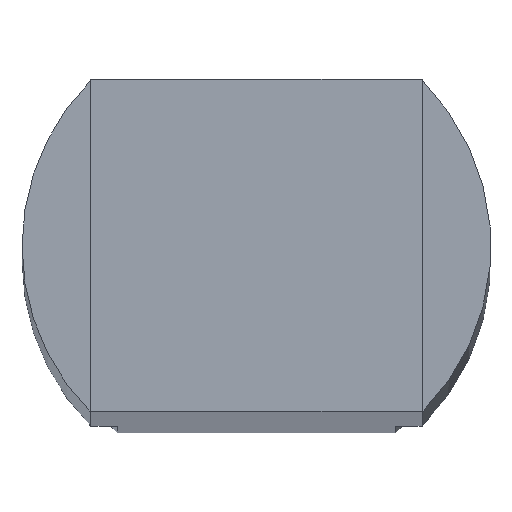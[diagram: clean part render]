
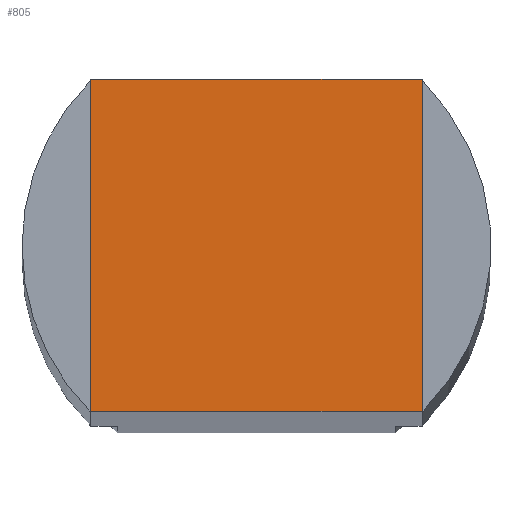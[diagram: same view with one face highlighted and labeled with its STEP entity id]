
A CAD part, top view. The second image highlights one B-rep face of the part: STEP entity #805.
In plain terms, the highlighted planar face has unit normal (0, 0, 1).
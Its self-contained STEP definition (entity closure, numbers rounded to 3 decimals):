
#8 = CARTESIAN_POINT ( 'NONE',  ( 2.3, 2.296, 170.3 ) ) ;
#25 = DIRECTION ( 'NONE',  ( 1., 0., 0. ) ) ;
#26 = AXIS2_PLACEMENT_3D ( 'NONE', #365, #618, #239 ) ;
#32 = VERTEX_POINT ( 'NONE', #665 ) ;
#40 = ORIENTED_EDGE ( 'NONE', *, *, #562, .T. ) ;
#41 = ORIENTED_EDGE ( 'NONE', *, *, #442, .F. ) ;
#50 = VERTEX_POINT ( 'NONE', #170 ) ;
#65 = CARTESIAN_POINT ( 'NONE',  ( 2.296, -2.3, 170.3 ) ) ;
#71 = VERTEX_POINT ( 'NONE', #65 ) ;
#89 = DIRECTION ( 'NONE',  ( 0., 0., 1. ) ) ;
#104 = EDGE_CURVE ( 'NONE', #249, #32, #408, .T. ) ;
#110 = DIRECTION ( 'NONE',  ( 1., 0., 0. ) ) ;
#116 = VERTEX_POINT ( 'NONE', #8 ) ;
#119 = EDGE_CURVE ( 'NONE', #71, #513, #400, .T. ) ;
#170 = CARTESIAN_POINT ( 'NONE',  ( -2.296, -2.3, 170.3 ) ) ;
#179 = DIRECTION ( 'NONE',  ( 1., 0., 0. ) ) ;
#200 = ORIENTED_EDGE ( 'NONE', *, *, #803, .T. ) ;
#202 = ORIENTED_EDGE ( 'NONE', *, *, #547, .F. ) ;
#212 = AXIS2_PLACEMENT_3D ( 'NONE', #587, #523, #25 ) ;
#233 = CARTESIAN_POINT ( 'NONE',  ( -2.3, -2.296, 170.3 ) ) ;
#239 = DIRECTION ( 'NONE',  ( 1., 0., 0. ) ) ;
#242 = PLANE ( 'NONE',  #26 ) ;
#249 = VERTEX_POINT ( 'NONE', #233 ) ;
#251 = VECTOR ( 'NONE', #583, 1000. ) ;
#258 = VERTEX_POINT ( 'NONE', #485 ) ;
#281 = CARTESIAN_POINT ( 'NONE',  ( 2.3, -2.3, 170.3 ) ) ;
#303 = ORIENTED_EDGE ( 'NONE', *, *, #348, .F. ) ;
#319 = VERTEX_POINT ( 'NONE', #663 ) ;
#322 = CIRCLE ( 'NONE', #212, 3.25 ) ;
#327 = CARTESIAN_POINT ( 'NONE',  ( 2.3, 2.3, 170.3 ) ) ;
#331 = CARTESIAN_POINT ( 'NONE',  ( 2.3, -2.3, 170.3 ) ) ;
#342 = FACE_OUTER_BOUND ( 'NONE', #606, .T. ) ;
#348 = EDGE_CURVE ( 'NONE', #71, #50, #468, .T. ) ;
#355 = CARTESIAN_POINT ( 'NONE',  ( 0., 0., 170.3 ) ) ;
#365 = CARTESIAN_POINT ( 'NONE',  ( 0., 0., 170.3 ) ) ;
#378 = CARTESIAN_POINT ( 'NONE',  ( 0., 0., 170.3 ) ) ;
#391 = ORIENTED_EDGE ( 'NONE', *, *, #119, .T. ) ;
#392 = DIRECTION ( 'NONE',  ( 1., 0., 0. ) ) ;
#400 = CIRCLE ( 'NONE', #585, 3.25 ) ;
#408 = LINE ( 'NONE', #692, #520 ) ;
#437 = DIRECTION ( 'NONE',  ( 0., 1., 0. ) ) ;
#442 = EDGE_CURVE ( 'NONE', #116, #513, #626, .T. ) ;
#459 = VECTOR ( 'NONE', #535, 1000. ) ;
#468 = LINE ( 'NONE', #281, #784 ) ;
#477 = CIRCLE ( 'NONE', #814, 3.25 ) ;
#480 = DIRECTION ( 'NONE',  ( -1., 0., 0. ) ) ;
#485 = CARTESIAN_POINT ( 'NONE',  ( -2.296, 2.3, 170.3 ) ) ;
#504 = EDGE_CURVE ( 'NONE', #258, #32, #477, .T. ) ;
#509 = CARTESIAN_POINT ( 'NONE',  ( 0., 0., 170.3 ) ) ;
#513 = VERTEX_POINT ( 'NONE', #740 ) ;
#520 = VECTOR ( 'NONE', #437, 1000. ) ;
#523 = DIRECTION ( 'NONE',  ( 0., 0., 1. ) ) ;
#535 = DIRECTION ( 'NONE',  ( 0., -1., 0. ) ) ;
#541 = AXIS2_PLACEMENT_3D ( 'NONE', #355, #629, #110 ) ;
#547 = EDGE_CURVE ( 'NONE', #258, #319, #730, .T. ) ;
#562 = EDGE_CURVE ( 'NONE', #116, #319, #322, .T. ) ;
#576 = ORIENTED_EDGE ( 'NONE', *, *, #504, .T. ) ;
#583 = DIRECTION ( 'NONE',  ( 1., 0., 0. ) ) ;
#585 = AXIS2_PLACEMENT_3D ( 'NONE', #509, #89, #392 ) ;
#587 = CARTESIAN_POINT ( 'NONE',  ( 0., 0., 170.3 ) ) ;
#599 = CIRCLE ( 'NONE', #541, 3.25 ) ;
#602 = DIRECTION ( 'NONE',  ( 0., 0., 1. ) ) ;
#606 = EDGE_LOOP ( 'NONE', ( #40, #202, #576, #757, #200, #303, #391, #41 ) ) ;
#618 = DIRECTION ( 'NONE',  ( 0., 0., 1. ) ) ;
#626 = LINE ( 'NONE', #331, #459 ) ;
#629 = DIRECTION ( 'NONE',  ( 0., 0., 1. ) ) ;
#663 = CARTESIAN_POINT ( 'NONE',  ( 2.296, 2.3, 170.3 ) ) ;
#665 = CARTESIAN_POINT ( 'NONE',  ( -2.3, 2.296, 170.3 ) ) ;
#692 = CARTESIAN_POINT ( 'NONE',  ( -2.3, -2.3, 170.3 ) ) ;
#730 = LINE ( 'NONE', #327, #251 ) ;
#740 = CARTESIAN_POINT ( 'NONE',  ( 2.3, -2.296, 170.3 ) ) ;
#757 = ORIENTED_EDGE ( 'NONE', *, *, #104, .F. ) ;
#784 = VECTOR ( 'NONE', #480, 1000. ) ;
#803 = EDGE_CURVE ( 'NONE', #249, #50, #599, .T. ) ;
#805 = ADVANCED_FACE ( 'NONE', ( #342 ), #242, .T. ) ;
#814 = AXIS2_PLACEMENT_3D ( 'NONE', #378, #602, #179 ) ;
